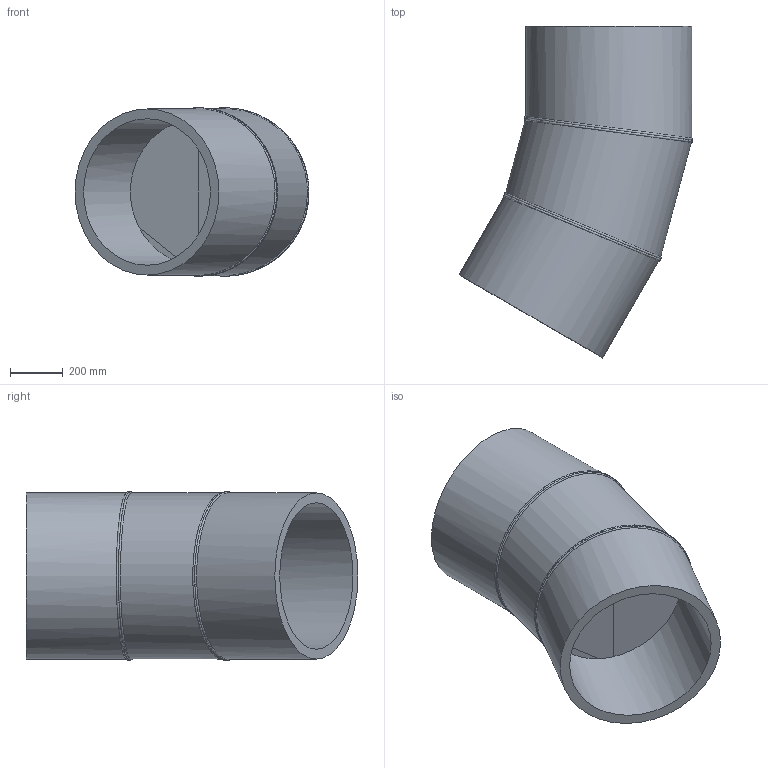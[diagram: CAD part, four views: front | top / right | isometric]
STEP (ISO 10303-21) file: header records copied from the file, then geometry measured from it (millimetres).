
FILE_DESCRIPTION(/* description */ ('Unknown'),/* implementation_level */ '2;1');
FILE_NAME(/* name */ 'Curva 30° a settore DE630 SDR17',/* time_stamp */ '2022-07-26T09:09:20+02:00',/* author */ ('Unknown'),/* organization */ ('Unknown'),/* preprocessor_version */ 'ST-DEVELOPER v18.102',/* originating_system */ 'Solid Edge',/* authorisation */ 'Unknown');
FILE_SCHEMA (('AUTOMOTIVE_DESIGN {1 0 10303 214 3 1 1}'));
Length unit declared in the file: millimetre
Products named in the file (3): Curva 30° a settore DE630 SDR17; Tubo x Gomito 30° DE630 SDR17 - 1; Tubo x Gomito 30° DE630 SDR17 - 2
Assembly tree (3 placements, depth 2):
  Curva 30° a settore DE630 SDR17
    Tubo x Gomito 30° DE630 SDR17 - 1  x2
    Tubo x Gomito 30° DE630 SDR17 - 2
Bounding box: 886.64 x 1257.89 x 637.99 mm (x, y, z)
Volume: 81379095.9 mm3; surface area: 4798354.8 mm2
Topology: 3 solids, 3 shells, 24 faces, 51 edges, 33 vertices
Faces by surface type: cylinder 14, plane 6, bspline 4
Full cylindrical faces by diameter (mm): 555.2 x3, 630 x3
Entity records: 3414 total; most frequent: CARTESIAN_POINT 3019, DIRECTION 70, ORIENTED_EDGE 52, AXIS2_PLACEMENT_3D 35, EDGE_LOOP 28, FACE_BOUND 28, EDGE_CURVE 26, VERTEX_POINT 20
